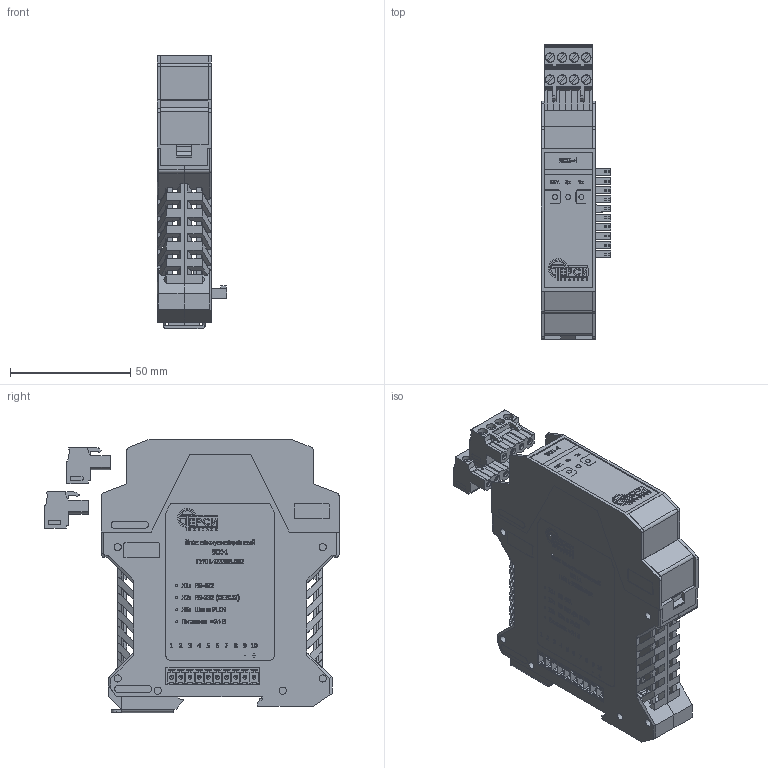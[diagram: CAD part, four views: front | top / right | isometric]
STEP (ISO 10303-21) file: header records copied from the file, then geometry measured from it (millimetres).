
FILE_DESCRIPTION(('STEP AP203'), '1');
FILE_NAME('鍛鍧 BCE-1_', '', ('UNSPECIFIED'), ('UNSPECIFIED'), 'ASCON STEP Converter 1.3', 'ASCON Math Kernel', '');
FILE_SCHEMA(('CONFIG_CONTROL_DESIGN'));
Length unit declared in the file: millimetre
Products named in the file (17): ME_22.5_UTR_H_BUS_10_H.Select__00496319; ME_Verriegelungshaken_H.Select__00446697; ME_22.5_UTL_H_BUS_10_H.Select__00496310; ME_BUS_22.5_MC_10-ST_H.Select__00493208; ME_BUS_FE-CONTACT_H.Select__00437355; Fussriegel_17.5_L30_H.Select__00315466; ME_22_5_OT-MSTBO_H.Select__00273265; MSTBO_2_5_4-G1L_H.Select__00364411; ч蜱齁罻; ME_B-22.5_MSTBO_H.Select__00296524; MSTBT_2.5-4-ST
Assembly tree (20 placements, depth 5):
  (unnamed)
    (unnamed)
      (unnamed)
        (unnamed)
          ME_22.5_UTR_H_BUS_10_H.Select__00496319
          ME_Verriegelungshaken_H.Select__00446697  x2
          ME_22.5_UTL_H_BUS_10_H.Select__00496310
          ME_BUS_22.5_MC_10-ST_H.Select__00493208
          ME_BUS_FE-CONTACT_H.Select__00437355
          Fussriegel_17.5_L30_H.Select__00315466
      (unnamed)
        ME_22_5_OT-MSTBO_H.Select__00273265
        MSTBO_2_5_4-G1L_H.Select__00364411  x2
        ч蜱齁罻  x2
          ME_B-22.5_MSTBO_H.Select__00296524
    MSTBT_2.5-4-ST  x2
      MSTBT_2.5-4-ST
Bounding box: 29.1 x 122.45 x 113.6 mm (x, y, z)
Volume: 67705.7 mm3; surface area: 94381 mm2
Topology: 17 solids, 17 shells, 10695 faces, 30102 edges, 19957 vertices
Faces by surface type: plane 6738, cylinder 3657, extrusion 278, cone 22
Full cylindrical faces by diameter (mm): 0.813 x3, 0.853 x3, 1.353 x8, 1.4 x16, 1.6 x20, 2 x6, 2.1 x3, 2.8 x16, 3 x12, 3.783 x8, 4 x8
Entity records: 393940 total; most frequent: CARTESIAN_POINT 59421, ORIENTED_EDGE 54424, DIRECTION 52831, EDGE_CURVE 27212, VECTOR 19839, LINE 19598, VERTEX_POINT 18105, AXIS2_PLACEMENT_3D 16496
